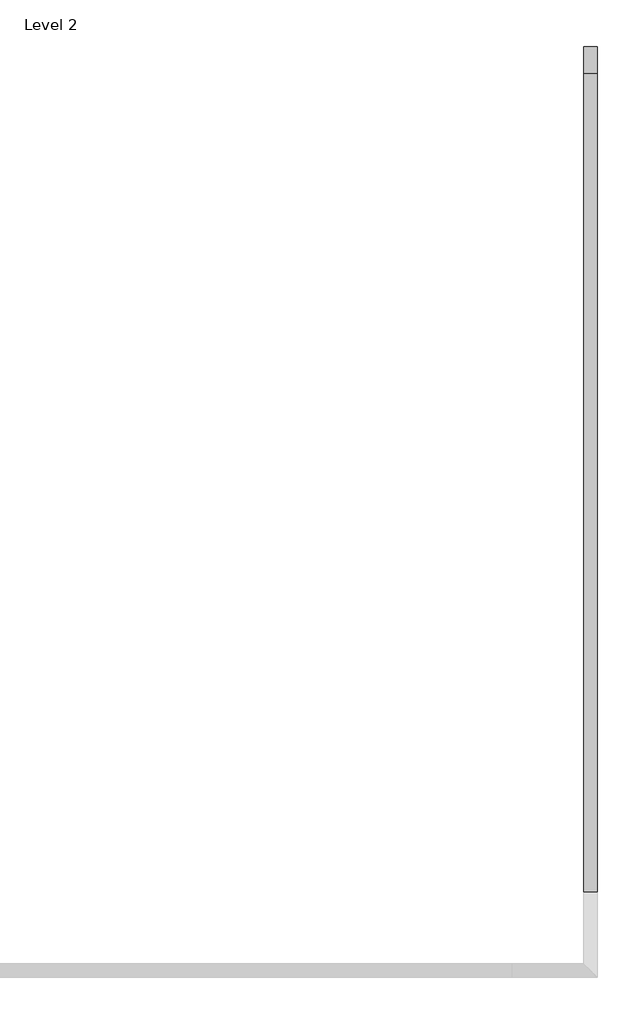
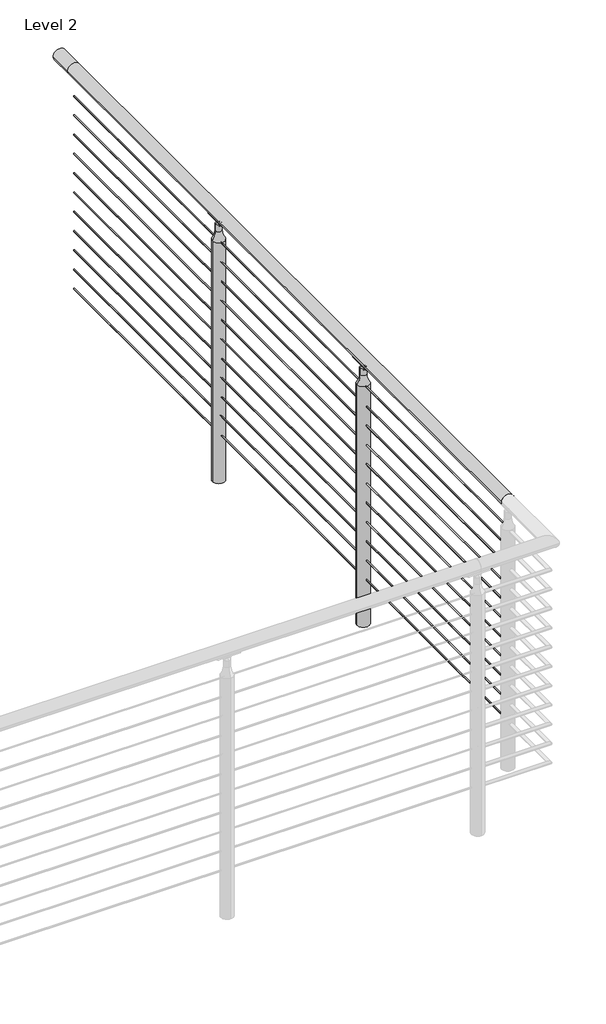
# One storey, part 17 of 21: 1 railing.
"""IFC4 building model written with IfcOpenShell, lengths in millimetres."""

from ifc_helpers import new_model, si_unit, point, frame, frame_2d, origin, place, context, project, spatial, polyline, circle_curve, ellipse_curve, trimmed, segment, composite_curve, outline, extrude, element, save
from ifc_brep_helpers import plane_surface, cylinder_surface, revolved_surface, advanced_brep

model = new_model("IFC4")

# Units and contexts
model_context = context("Model", 3, world=origin())
ifc_project = project(units=[si_unit("LENGTHUNIT", "METRE", prefix="MILLI")], contexts=[model_context])

# Site, building, storey
site = spatial("IfcSite", under=ifc_project)
building = spatial("IfcBuilding", under=site)
storey = spatial("IfcBuildingStorey", under=building, Name="Level 2", Elevation=3048.0)

# Railing
placement = place(None, origin())
element("IfcRailing", 1, ObjectType="VIVA-CIRCA-Cable-Weld Mount-Straight", at=placement, inside=storey, context=model_context, shape_type="SolidModel", body=[
    advanced_brep(
    [(46443.7072927, -51926.9426165, 4102.1), (46392.9072927, -51926.9426165, 4102.1), (46443.7072927, -48878.9426165, 4102.1), (46392.9072927, -48878.9426165, 4102.1), (46443.7072927, -48777.3426165, 4102.1), (46392.9072927, -48777.3426165, 4102.1)],
    [
        (0, 1, circle_curve(frame((46418.3072927, -51926.9426165, 4102.1), z_axis=(0.0, -1.0, 0.0), x_axis=(-1.0, 0.0, 0.0)), 25.4)),
        (1, 0, circle_curve(frame((46418.3072927, -51926.9426165, 4102.1), z_axis=(0.0, -1.0, 0.0), x_axis=(-1.0, 0.0, 0.0)), 25.4)),
        (0, 2),
        (2, 3, circle_curve(frame((46418.3072927, -48878.9426165, 4102.1), z_axis=(0.0, -1.0, 0.0), x_axis=(-1.0, 0.0, 0.0)), 25.4)),
        (3, 1),
        (3, 2, circle_curve(frame((46418.3072927, -48878.9426165, 4102.1), z_axis=(0.0, -1.0, 0.0), x_axis=(-1.0, 0.0, 0.0)), 25.4)),
        (4, 5, circle_curve(frame((46418.3072927, -48777.3426165, 4102.1), z_axis=(0.0, 1.0, 0.0), x_axis=(-1.0, 0.0, 0.0)), 25.4)),
        (5, 4, circle_curve(frame((46418.3072927, -48777.3426165, 4102.1), z_axis=(0.0, 1.0, 0.0), x_axis=(-1.0, 0.0, 0.0)), 25.4)),
        (2, 4),
        (5, 3),
    ],
    [
        plane_surface(frame((46418.3072927, -51926.9426165, 4127.5), z_axis=(0.0, -1.0, 0.0), x_axis=(0.0, 0.0, 1.0))),
        cylinder_surface(frame((46418.3072927, -51926.9426165, 4102.1), z_axis=(0.0, -1.0, 0.0), x_axis=(-1.0, 0.0, 0.0)), 25.4),
        plane_surface(frame((46418.3072927, -48777.3426165, 4127.5), z_axis=(0.0, 1.0, 0.0), x_axis=(0.0, 0.0, 1.0))),
        cylinder_surface(frame((46418.3072927, -48878.9426165, 4102.1), z_axis=(0.0, -1.0, 0.0), x_axis=(-1.0, 0.0, 0.0)), 25.4),
    ],
    [
        (0, [[1, 2]]),
        (1, [[-1, 3, 4, 5]]),
        (1, [[-2, -5, 6, -3]]),
        (2, [[7, 8]]),
        (3, [[-4, 9, -8, 10]]),
        (3, [[-6, -10, -7, -9]]),
    ],
),
    extrude(outline(composite_curve([segment(trimmed(circle_curve(frame_2d((3985.4124, 46418.3072927)), 2.3876), [point((3985.4124, 46415.9196927))], [point((3985.4124, 46420.6948927))], False, "CARTESIAN"), True, "CONTINUOUS"), segment(trimmed(circle_curve(frame_2d((3985.4124, 46418.3072927)), 2.3876), [point((3985.4124, 46420.6948927))], [point((3985.4124, 46415.9196927))], False, "CARTESIAN"), True, "CONTINUOUS")], self_intersect=False)), frame((0.0, -51926.9426165, 0.0), z_axis=(0.0, 1.0, 0.0), x_axis=(0.0, 0.0, 1.0)), (0.0, 0.0, 1.0), 3048.0),
    extrude(outline(composite_curve([segment(trimmed(circle_curve(frame_2d((3902.8624, 46418.3072927)), 2.3876), [point((3902.8624, 46415.9196927))], [point((3902.8624, 46420.6948927))], False, "CARTESIAN"), True, "CONTINUOUS"), segment(trimmed(circle_curve(frame_2d((3902.8624, 46418.3072927)), 2.3876), [point((3902.8624, 46420.6948927))], [point((3902.8624, 46415.9196927))], False, "CARTESIAN"), True, "CONTINUOUS")], self_intersect=False)), frame((0.0, -51926.9426165, 0.0), z_axis=(0.0, 1.0, 0.0), x_axis=(0.0, 0.0, 1.0)), (0.0, 0.0, 1.0), 3048.0),
    extrude(outline(composite_curve([segment(trimmed(circle_curve(frame_2d((3820.3124, 46418.3072927)), 2.3876), [point((3820.3124, 46415.9196927))], [point((3820.3124, 46420.6948927))], False, "CARTESIAN"), True, "CONTINUOUS"), segment(trimmed(circle_curve(frame_2d((3820.3124, 46418.3072927)), 2.3876), [point((3820.3124, 46420.6948927))], [point((3820.3124, 46415.9196927))], False, "CARTESIAN"), True, "CONTINUOUS")], self_intersect=False)), frame((0.0, -51926.9426165, 0.0), z_axis=(0.0, 1.0, 0.0), x_axis=(0.0, 0.0, 1.0)), (0.0, 0.0, 1.0), 3048.0),
    extrude(outline(composite_curve([segment(trimmed(circle_curve(frame_2d((3737.7624, 46418.3072927)), 2.3876), [point((3737.7624, 46415.9196927))], [point((3737.7624, 46420.6948927))], False, "CARTESIAN"), True, "CONTINUOUS"), segment(trimmed(circle_curve(frame_2d((3737.7624, 46418.3072927)), 2.3876), [point((3737.7624, 46420.6948927))], [point((3737.7624, 46415.9196927))], False, "CARTESIAN"), True, "CONTINUOUS")], self_intersect=False)), frame((0.0, -51926.9426165, 0.0), z_axis=(0.0, 1.0, 0.0), x_axis=(0.0, 0.0, 1.0)), (0.0, 0.0, 1.0), 3048.0),
    extrude(outline(composite_curve([segment(trimmed(circle_curve(frame_2d((3655.2124, 46418.3072927)), 2.3876), [point((3655.2124, 46415.9196927))], [point((3655.2124, 46420.6948927))], False, "CARTESIAN"), True, "CONTINUOUS"), segment(trimmed(circle_curve(frame_2d((3655.2124, 46418.3072927)), 2.3876), [point((3655.2124, 46420.6948927))], [point((3655.2124, 46415.9196927))], False, "CARTESIAN"), True, "CONTINUOUS")], self_intersect=False)), frame((0.0, -51926.9426165, 0.0), z_axis=(0.0, 1.0, 0.0), x_axis=(0.0, 0.0, 1.0)), (0.0, 0.0, 1.0), 3048.0),
    extrude(outline(composite_curve([segment(trimmed(circle_curve(frame_2d((3572.6624, 46418.3072927)), 2.3876), [point((3572.6624, 46415.9196927))], [point((3572.6624, 46420.6948927))], False, "CARTESIAN"), True, "CONTINUOUS"), segment(trimmed(circle_curve(frame_2d((3572.6624, 46418.3072927)), 2.3876), [point((3572.6624, 46420.6948927))], [point((3572.6624, 46415.9196927))], False, "CARTESIAN"), True, "CONTINUOUS")], self_intersect=False)), frame((0.0, -51926.9426165, 0.0), z_axis=(0.0, 1.0, 0.0), x_axis=(0.0, 0.0, 1.0)), (0.0, 0.0, 1.0), 3048.0),
    extrude(outline(composite_curve([segment(trimmed(circle_curve(frame_2d((3490.1124, 46418.3072927)), 2.3876), [point((3490.1124, 46415.9196927))], [point((3490.1124, 46420.6948927))], False, "CARTESIAN"), True, "CONTINUOUS"), segment(trimmed(circle_curve(frame_2d((3490.1124, 46418.3072927)), 2.3876), [point((3490.1124, 46420.6948927))], [point((3490.1124, 46415.9196927))], False, "CARTESIAN"), True, "CONTINUOUS")], self_intersect=False)), frame((0.0, -51926.9426165, 0.0), z_axis=(0.0, 1.0, 0.0), x_axis=(0.0, 0.0, 1.0)), (0.0, 0.0, 1.0), 3048.0),
    extrude(outline(composite_curve([segment(trimmed(circle_curve(frame_2d((3407.5624, 46418.3072927)), 2.3876), [point((3407.5624, 46415.9196927))], [point((3407.5624, 46420.6948927))], False, "CARTESIAN"), True, "CONTINUOUS"), segment(trimmed(circle_curve(frame_2d((3407.5624, 46418.3072927)), 2.3876), [point((3407.5624, 46420.6948927))], [point((3407.5624, 46415.9196927))], False, "CARTESIAN"), True, "CONTINUOUS")], self_intersect=False)), frame((0.0, -51926.9426165, 0.0), z_axis=(0.0, 1.0, 0.0), x_axis=(0.0, 0.0, 1.0)), (0.0, 0.0, 1.0), 3048.0),
    extrude(outline(composite_curve([segment(trimmed(circle_curve(frame_2d((3325.0124, 46418.3072927)), 2.3876), [point((3325.0124, 46415.9196927))], [point((3325.0124, 46420.6948927))], False, "CARTESIAN"), True, "CONTINUOUS"), segment(trimmed(circle_curve(frame_2d((3325.0124, 46418.3072927)), 2.3876), [point((3325.0124, 46420.6948927))], [point((3325.0124, 46415.9196927))], False, "CARTESIAN"), True, "CONTINUOUS")], self_intersect=False)), frame((0.0, -51926.9426165, 0.0), z_axis=(0.0, 1.0, 0.0), x_axis=(0.0, 0.0, 1.0)), (0.0, 0.0, 1.0), 3048.0),
    extrude(outline(composite_curve([segment(trimmed(circle_curve(frame_2d((3242.4624, 46418.3072927)), 2.3876), [point((3242.4624, 46415.9196927))], [point((3242.4624, 46420.6948927))], False, "CARTESIAN"), True, "CONTINUOUS"), segment(trimmed(circle_curve(frame_2d((3242.4624, 46418.3072927)), 2.3876), [point((3242.4624, 46420.6948927))], [point((3242.4624, 46415.9196927))], False, "CARTESIAN"), True, "CONTINUOUS")], self_intersect=False)), frame((0.0, -51926.9426165, 0.0), z_axis=(0.0, 1.0, 0.0), x_axis=(0.0, 0.0, 1.0)), (0.0, 0.0, 1.0), 3048.0),
    extrude(outline(composite_curve([segment(trimmed(circle_curve(frame_2d((3159.9124, 46418.3072927)), 2.3876), [point((3159.9124, 46415.9196927))], [point((3159.9124, 46420.6948927))], False, "CARTESIAN"), True, "CONTINUOUS"), segment(trimmed(circle_curve(frame_2d((3159.9124, 46418.3072927)), 2.3876), [point((3159.9124, 46420.6948927))], [point((3159.9124, 46415.9196927))], False, "CARTESIAN"), True, "CONTINUOUS")], self_intersect=False)), frame((0.0, -51926.9426165, 0.0), z_axis=(0.0, 1.0, 0.0), x_axis=(0.0, 0.0, 1.0)), (0.0, 0.0, 1.0), 3048.0),
    extrude(outline(composite_curve([segment(trimmed(circle_curve(frame_2d((4103.4254922, 46418.2105643)), 25.4345159), [point((4081.3106679, 46430.7743672))], [point((4081.2157471, 46405.8153306))], True, "CARTESIAN"), True, "CONTINUOUS"), segment(trimmed(circle_curve(frame_2d((4078.7132623, 46404.5706774)), 2.7949225), [point((4081.2157471, 46405.8153306))], [point((4076.3406769, 46403.0933724))], False, "CARTESIAN"), True, "CONTINUOUS"), segment(trimmed(circle_curve(frame_2d((4104.1881188, 46418.3440274)), 31.75), [point((4076.3406769, 46403.0933724))], [point((4076.9214354, 46434.6102646))], False, "CARTESIAN"), True, "CONTINUOUS"), segment(trimmed(circle_curve(frame_2d((4078.7923545, 46432.3219249)), 2.9558141), [point((4076.9214354, 46434.6102646))], [point((4081.3106679, 46430.7743672))], False, "CARTESIAN"), True, "CONTINUOUS")], self_intersect=False)), frame((0.0, -49939.7831415, 0.0), z_axis=(0.0, 1.0, 0.0), x_axis=(0.0, 0.0, 1.0)), (0.0, 0.0, 1.0), 90.4748),
    advanced_brep(
    [(46415.7672927, -49867.4778267, 4072.6506908), (46415.7672927, -49881.8457415, 4058.282776), (46415.7672927, -49907.2457415, 4058.282776), (46415.7672927, -49921.6136564, 4072.6506908), (46420.8472927, -49867.4778267, 4072.6506908), (46420.8472927, -49921.6136564, 4072.6506908), (46420.8472927, -49907.2457415, 4058.282776), (46420.8472927, -49881.8457415, 4058.282776)],
    [
        (0, 1, circle_curve(frame((46415.7672927, -49867.4778267, 4058.282776), z_axis=(1.0, 0.0, 0.0), x_axis=(0.0, -1.0, 0.0)), 14.3679149)),
        (1, 2, circle_curve(frame((46415.7672927, -49894.5457415, 4058.282776), z_axis=(-1.0, 0.0, 0.0), x_axis=(0.0, -1.0, 0.0)), 12.7)),
        (2, 3, circle_curve(frame((46415.7672927, -49921.6136564, 4058.282776), z_axis=(1.0, 0.0, 0.0), x_axis=(0.0, -1.0, 0.0)), 14.3679149)),
        (3, 0),
        (4, 5),
        (5, 6, circle_curve(frame((46420.8472927, -49921.6136564, 4058.282776), z_axis=(-1.0, 0.0, 0.0), x_axis=(0.0, -1.0, 0.0)), 14.3679149)),
        (6, 7, circle_curve(frame((46420.8472927, -49894.5457415, 4058.282776), z_axis=(1.0, 0.0, 0.0), x_axis=(0.0, -1.0, 0.0)), 12.7)),
        (7, 4, circle_curve(frame((46420.8472927, -49867.4778267, 4058.282776), z_axis=(-1.0, 0.0, 0.0), x_axis=(0.0, -1.0, 0.0)), 14.3679149)),
        (0, 4),
        (7, 1),
        (6, 2),
        (5, 3),
    ],
    [
        plane_surface(frame((46415.7672927, -49881.8457415, 4058.282776), z_axis=(-1.0, 0.0, 0.0), x_axis=(0.0, 0.0, -1.0))),
        plane_surface(frame((46420.8472927, -49881.8457415, 4058.282776), z_axis=(1.0, 0.0, 0.0), x_axis=(0.0, 0.0, 1.0))),
        revolved_surface(polyline([(46420.8472927, -49881.8457416, 4058.282776), (46415.7672927, -49881.8457416, 4058.282776)]), (46420.8472927, -49867.4778267, 4058.282776), (1.0, 0.0, 0.0)),
        cylinder_surface(frame((46420.8472927, -49894.5457415, 4058.282776), z_axis=(-1.0, 0.0, 0.0), x_axis=(0.0, -1.0, 0.0)), 12.7),
        revolved_surface(polyline([(46420.8472927, -49935.9815713, 4058.282776), (46415.7672927, -49935.9815713, 4058.282776)]), (46420.8472927, -49921.6136564, 4058.282776), (1.0, 0.0, 0.0)),
        plane_surface(frame((46415.7672927, -49921.6136564, 4072.6506908), z_axis=(0.0, 0.0, 1.0), x_axis=(1.0, 0.0, 0.0))),
    ],
    [
        (0, [[1, 2, 3, 4]]),
        (1, [[5, 6, 7, 8]]),
        (2, [[-1, 9, -8, 10]]),
        (3, [[-2, -10, -7, 11]]),
        (4, [[-3, -11, -6, 12]]),
        (5, [[-4, -12, -5, -9]]),
    ],
),
    advanced_brep(
    [(46443.7066905, -49894.5457415, 3989.1347854), (46392.9078949, -49894.5457415, 3989.1347854), (46392.9078949, -49894.5457415, 2959.1), (46443.7066905, -49894.5457415, 2959.1), (46431.0452612, -49894.5457415, 4027.3486202), (46405.5693241, -49894.5457415, 4027.3486202), (46431.0452612, -49894.5457415, 4056.5779599), (46405.5693241, -49894.5457415, 4056.5779599), (46418.3072927, -49894.5457415, 4063.238668), (46418.3072927, -49894.5457415, 2959.1)],
    [
        (0, 1, circle_curve(frame((46418.3072927, -49894.5457415, 3989.1347854), z_axis=(0.0, 0.0, -1.0), x_axis=(-1.0, 0.0, 0.0)), 25.3993978)),
        (1, 2),
        (2, 3, circle_curve(frame((46418.3072927, -49894.5457415, 2959.1), z_axis=(0.0, 0.0, 1.0), x_axis=(-1.0, 0.0, 0.0)), 25.3993978)),
        (3, 0),
        (1, 0, circle_curve(frame((46418.3072927, -49894.5457415, 3989.1347854), z_axis=(0.0, 0.0, -1.0), x_axis=(-1.0, 0.0, 0.0)), 25.3993978)),
        (3, 2, circle_curve(frame((46418.3072927, -49894.5457415, 2959.1), z_axis=(0.0, 0.0, 1.0), x_axis=(-1.0, 0.0, 0.0)), 25.3993978)),
        (4, 5, circle_curve(frame((46418.3072927, -49894.5457415, 4027.3486202), z_axis=(0.0, 0.0, -1.0), x_axis=(-1.0, 0.0, 0.0)), 12.7379685)),
        (5, 1, circle_curve(frame((46341.5714558, -49894.5457415, 4027.3486202), z_axis=(0.0, 1.0, 0.0), x_axis=(-1.0, 0.0, 0.0)), 63.9978683)),
        (0, 4, circle_curve(frame((46495.0431295, -49894.5457415, 4027.3486202), z_axis=(0.0, 1.0, 0.0), x_axis=(1.0, 0.0, 0.0)), 63.9978683)),
        (5, 4, circle_curve(frame((46418.3072927, -49894.5457415, 4027.3486202), z_axis=(0.0, 0.0, -1.0), x_axis=(-1.0, 0.0, 0.0)), 12.7379685)),
        (6, 7, circle_curve(frame((46418.3072927, -49894.5457415, 4056.5779599), z_axis=(0.0, 0.0, -1.0), x_axis=(-1.0, 0.0, 0.0)), 12.7379685)),
        (7, 5),
        (4, 6),
        (7, 6, circle_curve(frame((46418.3072927, -49894.5457415, 4056.5779599), z_axis=(0.0, 0.0, -1.0), x_axis=(-1.0, 0.0, 0.0)), 12.7379685)),
        (8, 7, circle_curve(frame((46418.3072927, -49894.5457415, 4047.7282394), z_axis=(0.0, -1.0, 0.0), x_axis=(-1.0, 0.0, 0.0)), 15.5104286)),
        (6, 8, circle_curve(frame((46418.3072927, -49894.5457415, 4047.7282394), z_axis=(0.0, -1.0, 0.0), x_axis=(1.0, 0.0, 0.0)), 15.5104286)),
        (2, 9),
        (9, 3),
    ],
    [
        cylinder_surface(frame((46418.3072927, -49894.5457415, 4152.9), z_axis=(0.0, 0.0, 1.0), x_axis=(-1.0, 0.0, 0.0)), 25.3993978),
        revolved_surface(trimmed(ellipse_curve(frame((46341.5714558, -49894.5457415, 4027.3486202), z_axis=(0.0, -1.0, 0.0), x_axis=(-1.0, 0.0, 0.0)), 63.9978683, 63.9978683), [point((46392.9078949, -49894.5457415, 3989.1347854))], [point((46405.5693241, -49894.5457415, 4027.3486202))], True, "CARTESIAN"), (46418.3072927, -49894.5457415, 4152.9), (0.0, 0.0, 1.0)),
        cylinder_surface(frame((46418.3072927, -49894.5457415, 4152.9), z_axis=(0.0, 0.0, 1.0), x_axis=(-1.0, 0.0, 0.0)), 12.7379685),
        revolved_surface(trimmed(ellipse_curve(frame((46418.3072927, -49894.5457415, 4047.7282394), z_axis=(0.0, 1.0, 0.0), x_axis=(-1.0, 0.0, 0.0)), 15.5104286, 15.5104286), [point((46405.5693241, -49894.5457415, 4056.5779599))], [point((46418.3072927, -49894.5457415, 4063.238668))], True, "CARTESIAN"), (46418.3072927, -49894.5457415, 4152.9), (0.0, 0.0, 1.0)),
        plane_surface(frame((46418.3072927, -49894.5457415, 2959.1), z_axis=(0.0, 0.0, -1.0), x_axis=(-1.0, 0.0, 0.0))),
    ],
    [
        (0, [[1, 2, 3, 4]]),
        (0, [[5, -4, 6, -2]]),
        (1, [[7, 8, -1, 9]]),
        (1, [[10, -9, -5, -8]]),
        (2, [[11, 12, -7, 13]]),
        (2, [[14, -13, -10, -12]]),
        (3, [[15, -11, 16]]),
        (3, [[-16, -14, -15]]),
        (4, [[-3, 17, 18]]),
        (4, [[-6, -18, -17]]),
    ],
),
    extrude(outline(composite_curve([segment(trimmed(circle_curve(frame_2d((4103.4254922, 46418.2105643)), 25.4345159), [point((4081.3106679, 46430.7743672))], [point((4081.2157471, 46405.8153306))], True, "CARTESIAN"), True, "CONTINUOUS"), segment(trimmed(circle_curve(frame_2d((4078.7132623, 46404.5706774)), 2.7949225), [point((4081.2157471, 46405.8153306))], [point((4076.3406769, 46403.0933724))], False, "CARTESIAN"), True, "CONTINUOUS"), segment(trimmed(circle_curve(frame_2d((4104.1881188, 46418.3440274)), 31.75), [point((4076.3406769, 46403.0933724))], [point((4076.9214354, 46434.6102646))], False, "CARTESIAN"), True, "CONTINUOUS"), segment(trimmed(circle_curve(frame_2d((4078.7923545, 46432.3219249)), 2.9558141), [point((4076.9214354, 46434.6102646))], [point((4081.3106679, 46430.7743672))], False, "CARTESIAN"), True, "CONTINUOUS")], self_intersect=False)), frame((0.0, -50955.7831415, 0.0), z_axis=(0.0, 1.0, 0.0), x_axis=(0.0, 0.0, 1.0)), (0.0, 0.0, 1.0), 90.4748),
    advanced_brep(
    [(46415.7672927, -50883.4778267, 4072.6506908), (46415.7672927, -50897.8457415, 4058.282776), (46415.7672927, -50923.2457415, 4058.282776), (46415.7672927, -50937.6136564, 4072.6506908), (46420.8472927, -50883.4778267, 4072.6506908), (46420.8472927, -50937.6136564, 4072.6506908), (46420.8472927, -50923.2457415, 4058.282776), (46420.8472927, -50897.8457415, 4058.282776)],
    [
        (0, 1, circle_curve(frame((46415.7672927, -50883.4778267, 4058.282776), z_axis=(1.0, 0.0, 0.0), x_axis=(0.0, -1.0, 0.0)), 14.3679149)),
        (1, 2, circle_curve(frame((46415.7672927, -50910.5457415, 4058.282776), z_axis=(-1.0, 0.0, 0.0), x_axis=(0.0, -1.0, 0.0)), 12.7)),
        (2, 3, circle_curve(frame((46415.7672927, -50937.6136564, 4058.282776), z_axis=(1.0, 0.0, 0.0), x_axis=(0.0, -1.0, 0.0)), 14.3679149)),
        (3, 0),
        (4, 5),
        (5, 6, circle_curve(frame((46420.8472927, -50937.6136564, 4058.282776), z_axis=(-1.0, 0.0, 0.0), x_axis=(0.0, -1.0, 0.0)), 14.3679149)),
        (6, 7, circle_curve(frame((46420.8472927, -50910.5457415, 4058.282776), z_axis=(1.0, 0.0, 0.0), x_axis=(0.0, -1.0, 0.0)), 12.7)),
        (7, 4, circle_curve(frame((46420.8472927, -50883.4778267, 4058.282776), z_axis=(-1.0, 0.0, 0.0), x_axis=(0.0, -1.0, 0.0)), 14.3679149)),
        (0, 4),
        (7, 1),
        (6, 2),
        (5, 3),
    ],
    [
        plane_surface(frame((46415.7672927, -50897.8457415, 4058.282776), z_axis=(-1.0, 0.0, 0.0), x_axis=(0.0, 0.0, -1.0))),
        plane_surface(frame((46420.8472927, -50897.8457415, 4058.282776), z_axis=(1.0, 0.0, 0.0), x_axis=(0.0, 0.0, 1.0))),
        revolved_surface(polyline([(46420.8472927, -50897.8457416, 4058.282776), (46415.7672927, -50897.8457416, 4058.282776)]), (46420.8472927, -50883.4778267, 4058.282776), (1.0, 0.0, 0.0)),
        cylinder_surface(frame((46420.8472927, -50910.5457415, 4058.282776), z_axis=(-1.0, 0.0, 0.0), x_axis=(0.0, -1.0, 0.0)), 12.7),
        revolved_surface(polyline([(46420.8472927, -50951.9815713, 4058.282776), (46415.7672927, -50951.9815713, 4058.282776)]), (46420.8472927, -50937.6136564, 4058.282776), (1.0, 0.0, 0.0)),
        plane_surface(frame((46415.7672927, -50937.6136564, 4072.6506908), z_axis=(0.0, 0.0, 1.0), x_axis=(1.0, 0.0, 0.0))),
    ],
    [
        (0, [[1, 2, 3, 4]]),
        (1, [[5, 6, 7, 8]]),
        (2, [[-1, 9, -8, 10]]),
        (3, [[-2, -10, -7, 11]]),
        (4, [[-3, -11, -6, 12]]),
        (5, [[-4, -12, -5, -9]]),
    ],
),
    advanced_brep(
    [(46443.7066905, -50910.5457415, 3989.1347854), (46392.9078949, -50910.5457415, 3989.1347854), (46392.9078949, -50910.5457415, 2959.1), (46443.7066905, -50910.5457415, 2959.1), (46431.0452612, -50910.5457415, 4027.3486202), (46405.5693241, -50910.5457415, 4027.3486202), (46431.0452612, -50910.5457415, 4056.5779599), (46405.5693241, -50910.5457415, 4056.5779599), (46418.3072927, -50910.5457415, 4063.238668), (46418.3072927, -50910.5457415, 2959.1)],
    [
        (0, 1, circle_curve(frame((46418.3072927, -50910.5457415, 3989.1347854), z_axis=(0.0, 0.0, -1.0), x_axis=(-1.0, 0.0, 0.0)), 25.3993978)),
        (1, 2),
        (2, 3, circle_curve(frame((46418.3072927, -50910.5457415, 2959.1), z_axis=(0.0, 0.0, 1.0), x_axis=(-1.0, 0.0, 0.0)), 25.3993978)),
        (3, 0),
        (1, 0, circle_curve(frame((46418.3072927, -50910.5457415, 3989.1347854), z_axis=(0.0, 0.0, -1.0), x_axis=(-1.0, 0.0, 0.0)), 25.3993978)),
        (3, 2, circle_curve(frame((46418.3072927, -50910.5457415, 2959.1), z_axis=(0.0, 0.0, 1.0), x_axis=(-1.0, 0.0, 0.0)), 25.3993978)),
        (4, 5, circle_curve(frame((46418.3072927, -50910.5457415, 4027.3486202), z_axis=(0.0, 0.0, -1.0), x_axis=(-1.0, 0.0, 0.0)), 12.7379685)),
        (5, 1, circle_curve(frame((46341.5714558, -50910.5457415, 4027.3486202), z_axis=(0.0, 1.0, 0.0), x_axis=(-1.0, 0.0, 0.0)), 63.9978683)),
        (0, 4, circle_curve(frame((46495.0431295, -50910.5457415, 4027.3486202), z_axis=(0.0, 1.0, 0.0), x_axis=(1.0, 0.0, 0.0)), 63.9978683)),
        (5, 4, circle_curve(frame((46418.3072927, -50910.5457415, 4027.3486202), z_axis=(0.0, 0.0, -1.0), x_axis=(-1.0, 0.0, 0.0)), 12.7379685)),
        (6, 7, circle_curve(frame((46418.3072927, -50910.5457415, 4056.5779599), z_axis=(0.0, 0.0, -1.0), x_axis=(-1.0, 0.0, 0.0)), 12.7379685)),
        (7, 5),
        (4, 6),
        (7, 6, circle_curve(frame((46418.3072927, -50910.5457415, 4056.5779599), z_axis=(0.0, 0.0, -1.0), x_axis=(-1.0, 0.0, 0.0)), 12.7379685)),
        (8, 7, circle_curve(frame((46418.3072927, -50910.5457415, 4047.7282394), z_axis=(0.0, -1.0, 0.0), x_axis=(-1.0, 0.0, 0.0)), 15.5104286)),
        (6, 8, circle_curve(frame((46418.3072927, -50910.5457415, 4047.7282394), z_axis=(0.0, -1.0, 0.0), x_axis=(1.0, 0.0, 0.0)), 15.5104286)),
        (2, 9),
        (9, 3),
    ],
    [
        cylinder_surface(frame((46418.3072927, -50910.5457415, 4152.9), z_axis=(0.0, 0.0, 1.0), x_axis=(-1.0, 0.0, 0.0)), 25.3993978),
        revolved_surface(trimmed(ellipse_curve(frame((46341.5714558, -50910.5457415, 4027.3486202), z_axis=(0.0, -1.0, 0.0), x_axis=(-1.0, 0.0, 0.0)), 63.9978683, 63.9978683), [point((46392.9078949, -50910.5457415, 3989.1347854))], [point((46405.5693241, -50910.5457415, 4027.3486202))], True, "CARTESIAN"), (46418.3072927, -50910.5457415, 4152.9), (0.0, 0.0, 1.0)),
        cylinder_surface(frame((46418.3072927, -50910.5457415, 4152.9), z_axis=(0.0, 0.0, 1.0), x_axis=(-1.0, 0.0, 0.0)), 12.7379685),
        revolved_surface(trimmed(ellipse_curve(frame((46418.3072927, -50910.5457415, 4047.7282394), z_axis=(0.0, 1.0, 0.0), x_axis=(-1.0, 0.0, 0.0)), 15.5104286, 15.5104286), [point((46405.5693241, -50910.5457415, 4056.5779599))], [point((46418.3072927, -50910.5457415, 4063.238668))], True, "CARTESIAN"), (46418.3072927, -50910.5457415, 4152.9), (0.0, 0.0, 1.0)),
        plane_surface(frame((46418.3072927, -50910.5457415, 2959.1), z_axis=(0.0, 0.0, -1.0), x_axis=(-1.0, 0.0, 0.0))),
    ],
    [
        (0, [[1, 2, 3, 4]]),
        (0, [[5, -4, 6, -2]]),
        (1, [[7, 8, -1, 9]]),
        (1, [[10, -9, -5, -8]]),
        (2, [[11, 12, -7, 13]]),
        (2, [[14, -13, -10, -12]]),
        (3, [[15, -11, 16]]),
        (3, [[-16, -14, -15]]),
        (4, [[-3, 17, 18]]),
        (4, [[-6, -18, -17]]),
    ],
),
])

save(model, "model.ifc")
